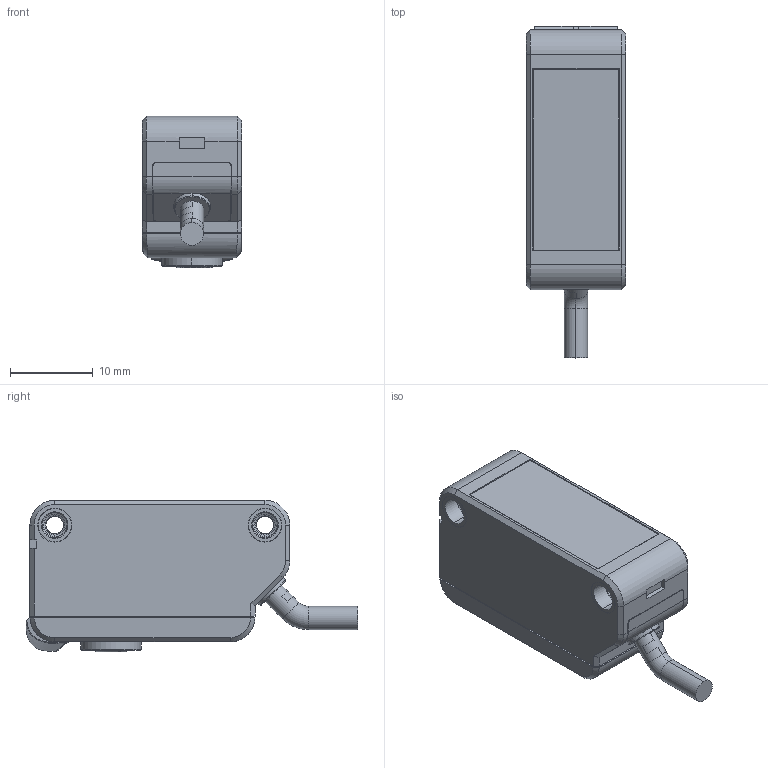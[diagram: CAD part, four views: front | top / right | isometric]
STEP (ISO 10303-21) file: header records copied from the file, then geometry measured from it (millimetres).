
FILE_DESCRIPTION((''),'2;1');
FILE_NAME('0-DUISHE-JIESHOU_ASM_ASM','2023-02-27T11:02:25',('HP'),(''),'CREO PARAMETRIC BY PTC INC, 2019224','CREO PARAMETRIC BY PTC INC, 2019224','');
FILE_SCHEMA(('CONFIG_CONTROL_DESIGN','SHAPE_APPEARANCE_LAYERS_GROUPS'));
Length unit declared in the file: millimetre
Products named in the file (9): 50-0140100-TP_93; 50-0100017-WIRE_268; 50-0140101-BP_284; 50-0140104-TP-BUTTON_275; 50-0140103-BP-BUTTON_262; 0001_28; M3X12_162; 0-DUISHE-JIESHOU_ASM_132_ASM; 0-DUISHE-JIESHOU_ASM_ASM
Assembly tree (9 placements, depth 3):
  0-DUISHE-JIESHOU_ASM_ASM
    0-DUISHE-JIESHOU_ASM_132_ASM
      50-0140100-TP_93
      50-0100017-WIRE_268
      50-0140101-BP_284
      50-0140104-TP-BUTTON_275
      50-0140103-BP-BUTTON_262
      0001_28
      M3X12_162  x2
Bounding box: 12 x 40.11 x 18.3 mm (x, y, z)
Volume: 5897.3 mm3; surface area: 4740.5 mm2
Topology: 8 solids, 8 shells, 564 faces, 1561 edges, 1035 vertices
Faces by surface type: plane 308, cylinder 155, bspline 48, cone 22, torus 13, sphere 10, extrusion 8
Entity records: 22701 total; most frequent: CARTESIAN_POINT 8163, ORIENTED_EDGE 2372, DIRECTION 2088, EDGE_CURVE 1186, PRESENTATION_STYLE_ASSIGNMENT 1133, STYLED_ITEM 1127, CURVE_STYLE 1111, VERTEX_POINT 790
